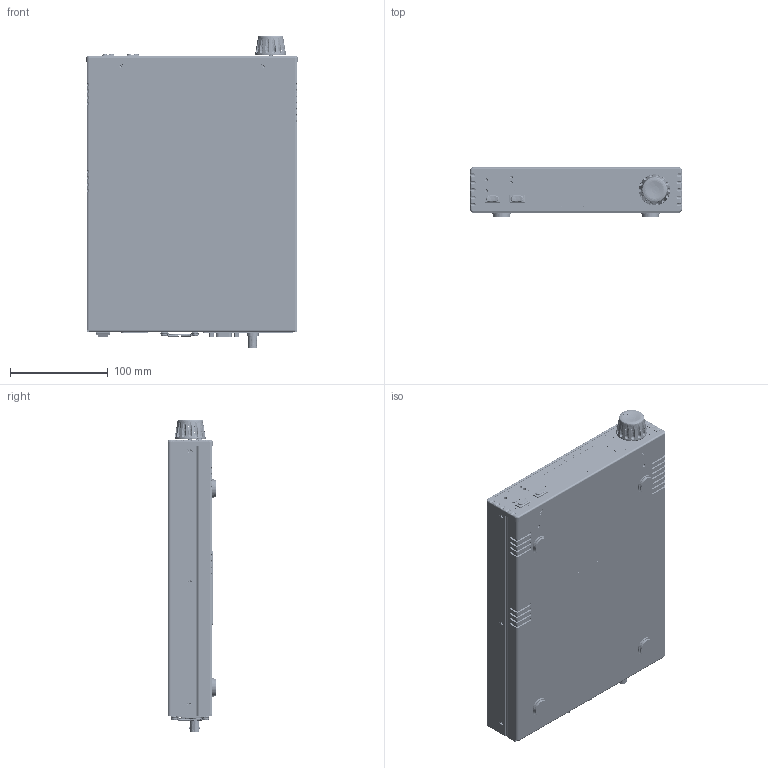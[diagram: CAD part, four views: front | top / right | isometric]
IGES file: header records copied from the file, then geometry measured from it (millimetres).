
Start section: SolidWorks IGES file using analytic representation for surfaces
Global section: file name: C:\Dropbox\Mechanical Engr\Development Projects (P)\4200 LaserSource\Customer Model Development\Step 6 - 42XX TLA.IGS; native system: SolidWorks 2018; preprocessor: SolidWorks 2018; author: mhanson; date: 190307.140449; units: inch
Bounding box: 216.41 x 50.04 x 320.27 mm (x, y, z)
Surface area: 190407.1 mm2 (no closed solid volume)
Topology: 0 solids, 0 shells, 3880 faces, 42856 edges, 42765 vertices
Faces by surface type: bspline 3119, revolution 761
